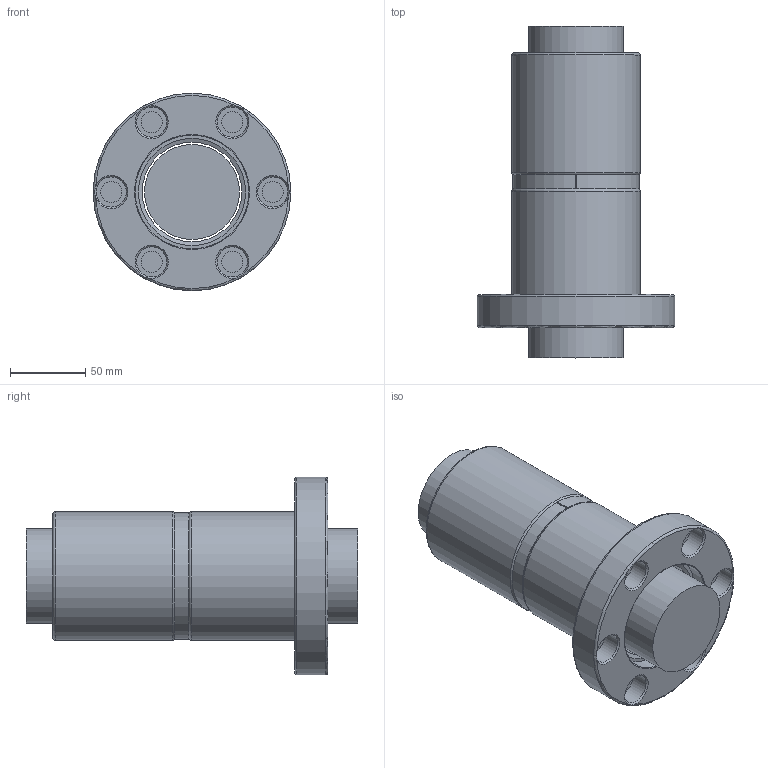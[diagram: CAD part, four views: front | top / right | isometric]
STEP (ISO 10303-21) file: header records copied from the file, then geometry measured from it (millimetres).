
FILE_DESCRIPTION(/* description */ (''),/* implementation_level */ '2;1');
FILE_NAME(/* name */ '6310.prt.step',/* time_stamp */ '2008-12-05T09:22:37+08:00',/* author */ (''),/* organization */ (''),/* preprocessor_version */ 'ST-DEVELOPER v11',/* originating_system */ 'SIEMENS UGS NX 6.0',/* authorisation */ '');
FILE_SCHEMA (('AUTOMOTIVE_DESIGN { 1 0 10303 214 1 1 1 1 }'));
Length unit declared in the file: millimetre
Products named in the file (1): 6310
Bounding box: 131 x 220 x 131 mm (x, y, z)
Volume: 1205657.3 mm3; surface area: 173718.9 mm2
Topology: 5 solids, 5 shells, 74 faces, 158 edges, 105 vertices
Faces by surface type: plane 31, cylinder 26, cone 10, torus 7
Full cylindrical faces by diameter (mm): 14 x6, 20 x6, 62.95 x1, 66 x2, 73 x2, 75.3 x2, 85 x2, 131 x1
Entity records: 1698 total; most frequent: DIRECTION 314, CARTESIAN_POINT 283, ORIENTED_EDGE 192, AXIS2_PLACEMENT_3D 149, EDGE_LOOP 128, FACE_BOUND 108, EDGE_CURVE 96, VERTEX_POINT 82
